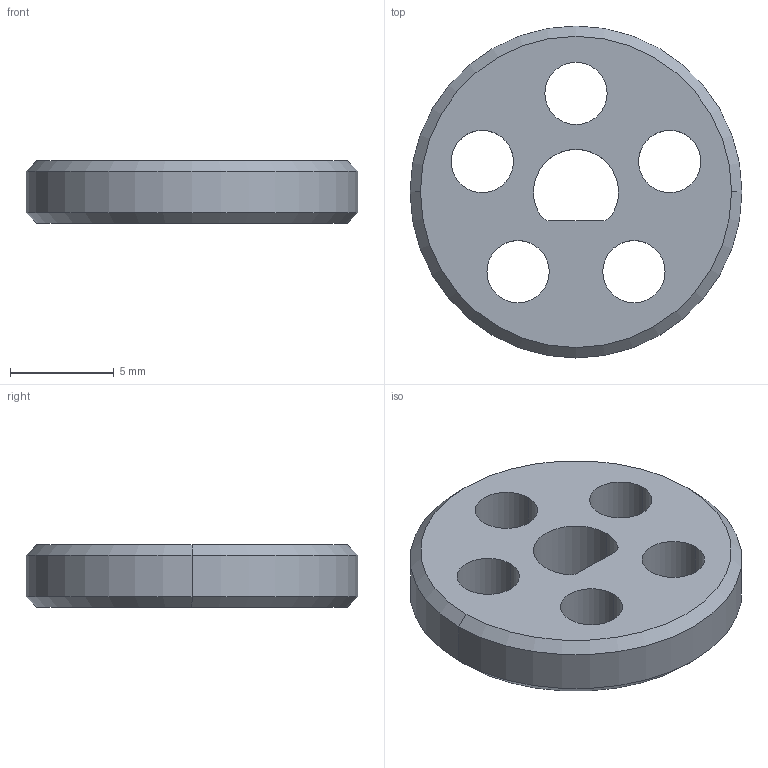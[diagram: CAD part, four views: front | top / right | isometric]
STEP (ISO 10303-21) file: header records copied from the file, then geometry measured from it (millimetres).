
FILE_DESCRIPTION (( 'STEP AP214' ), '1' );
FILE_NAME ('2026_6_2_パンチングパドル.STEP', '2026-06-15T00:56:12', ( '' ), ( '' ), 'SwSTEP 2.0', 'SolidWorks 2025', '' );
FILE_SCHEMA (( 'AUTOMOTIVE_DESIGN' ));
Length unit declared in the file: millimetre
Products named in the file (1): 2026_6_2_パンチングパドル
Bounding box: 16 x 16 x 3 mm (x, y, z)
Volume: 449.4 mm3; surface area: 607.2 mm2
Topology: 1 solids, 1 shells, 24 faces, 62 edges, 40 vertices
Faces by surface type: cylinder 17, cone 4, plane 3
Entity records: 799 total; most frequent: DIRECTION 150, CARTESIAN_POINT 127, ORIENTED_EDGE 124, AXIS2_PLACEMENT_3D 63, EDGE_CURVE 62, VERTEX_POINT 40, CIRCLE 38, EDGE_LOOP 36
